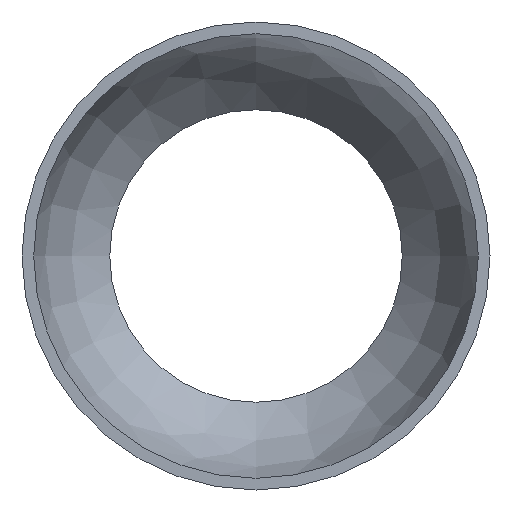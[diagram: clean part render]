
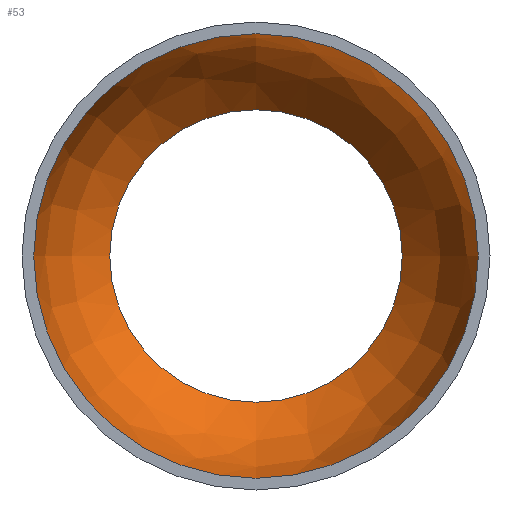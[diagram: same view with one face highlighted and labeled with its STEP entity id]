
A CAD part, front view. The second image highlights one B-rep face of the part: STEP entity #53.
In plain terms, the highlighted free-form (B-spline) face has degree [3, 3] with [4, 7] control points.
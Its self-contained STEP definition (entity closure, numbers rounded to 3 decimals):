
#53 = ADVANCED_FACE( '', ( #113, #114 ), #115, .F. );
#113 = FACE_OUTER_BOUND( '', #174, .T. );
#114 = FACE_OUTER_BOUND( '', #175, .T. );
#115 = ( BOUNDED_SURFACE(  )B_SPLINE_SURFACE( 3, 3, ( ( #178, #179, #180, #181, #182, #183, #184 ), ( #185, #186, #187, #188, #189, #190, #191 ), ( #192, #193, #194, #195, #196, #197, #198 ), ( #199, #200, #201, #202, #203, #204, #205 ) ), .UNSPECIFIED., .F., .T., .F. )B_SPLINE_SURFACE_WITH_KNOTS( ( 4, 4 ), ( 4, 3, 4 ), ( 0., 6.283 ), ( 0.07, 0.463, 0.856 ), .UNSPECIFIED. )GEOMETRIC_REPRESENTATION_ITEM(  )RATIONAL_B_SPLINE_SURFACE( ( ( 1., 0.333, 0.333, 1., 0.333, 0.333, 1. ), ( 0.949, 0.316, 0.316, 0.949, 0.316, 0.316, 0.949 ), ( 0.949, 0.316, 0.316, 0.949, 0.316, 0.316, 0.949 ), ( 1., 0.333, 0.333, 1., 0.333, 0.333, 1. ) ) )REPRESENTATION_ITEM( '' )SURFACE(  ) );
#174 = EDGE_LOOP( '', ( #313 ) );
#175 = EDGE_LOOP( '', ( #314 ) );
#178 = CARTESIAN_POINT( '', ( 0., 39.053, 37.5 ) );
#179 = CARTESIAN_POINT( '', ( 75., 39.053, 37.5 ) );
#180 = CARTESIAN_POINT( '', ( 75., 39.053, -37.5 ) );
#181 = CARTESIAN_POINT( '', ( 0., 39.053, -37.5 ) );
#182 = CARTESIAN_POINT( '', ( -75., 39.053, -37.5 ) );
#183 = CARTESIAN_POINT( '', ( -75., 39.053, 37.5 ) );
#184 = CARTESIAN_POINT( '', ( 0., 39.053, 37.5 ) );
#185 = CARTESIAN_POINT( '', ( 0., 29.004, 49.075 ) );
#186 = CARTESIAN_POINT( '', ( 98.149, 29.004, 49.075 ) );
#187 = CARTESIAN_POINT( '', ( 98.149, 29.004, -49.075 ) );
#188 = CARTESIAN_POINT( '', ( 0., 29.004, -49.075 ) );
#189 = CARTESIAN_POINT( '', ( -98.149, 29.004, -49.075 ) );
#190 = CARTESIAN_POINT( '', ( -98.149, 29.004, 49.075 ) );
#191 = CARTESIAN_POINT( '', ( 0., 29.004, 49.075 ) );
#192 = CARTESIAN_POINT( '', ( 0., 15.29, 55.92 ) );
#193 = CARTESIAN_POINT( '', ( 111.84, 15.29, 55.92 ) );
#194 = CARTESIAN_POINT( '', ( 111.84, 15.29, -55.92 ) );
#195 = CARTESIAN_POINT( '', ( 0., 15.29, -55.92 ) );
#196 = CARTESIAN_POINT( '', ( -111.84, 15.29, -55.92 ) );
#197 = CARTESIAN_POINT( '', ( -111.84, 15.29, 55.92 ) );
#198 = CARTESIAN_POINT( '', ( 0., 15.29, 55.92 ) );
#199 = CARTESIAN_POINT( '', ( 0., 0., 56.993 ) );
#200 = CARTESIAN_POINT( '', ( 113.986, 0., 56.993 ) );
#201 = CARTESIAN_POINT( '', ( 113.986, 0., -56.993 ) );
#202 = CARTESIAN_POINT( '', ( 0., 0., -56.993 ) );
#203 = CARTESIAN_POINT( '', ( -113.986, 0., -56.993 ) );
#204 = CARTESIAN_POINT( '', ( -113.986, 0., 56.993 ) );
#205 = CARTESIAN_POINT( '', ( 0., 0., 56.993 ) );
#313 = ORIENTED_EDGE( '', *, *, #344, .F. );
#314 = ORIENTED_EDGE( '', *, *, #356, .T. );
#344 = EDGE_CURVE( '', #374, #374, #375, .T. );
#356 = EDGE_CURVE( '', #394, #394, #395, .T. );
#374 = VERTEX_POINT( '', #413 );
#375 = CIRCLE( '', #414, 56.993 );
#394 = VERTEX_POINT( '', #433 );
#395 = CIRCLE( '', #434, 37.5 );
#413 = CARTESIAN_POINT( '', ( 0., 0., 56.993 ) );
#414 = AXIS2_PLACEMENT_3D( '', #452, #453, #454 );
#433 = CARTESIAN_POINT( '', ( 0., 39.053, 37.5 ) );
#434 = AXIS2_PLACEMENT_3D( '', #476, #477, #478 );
#452 = CARTESIAN_POINT( '', ( 0., 0., 0. ) );
#453 = DIRECTION( '', ( 0., 1., 0. ) );
#454 = DIRECTION( '', ( 0., 0., 1. ) );
#476 = CARTESIAN_POINT( '', ( 0., 39.053, 0. ) );
#477 = DIRECTION( '', ( 0., 1., 0. ) );
#478 = DIRECTION( '', ( 0., 0., 1. ) );
